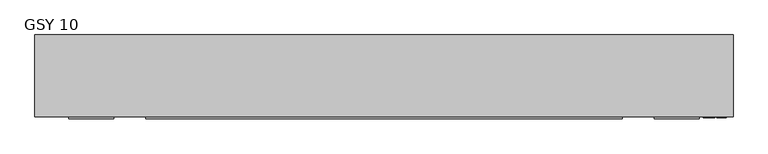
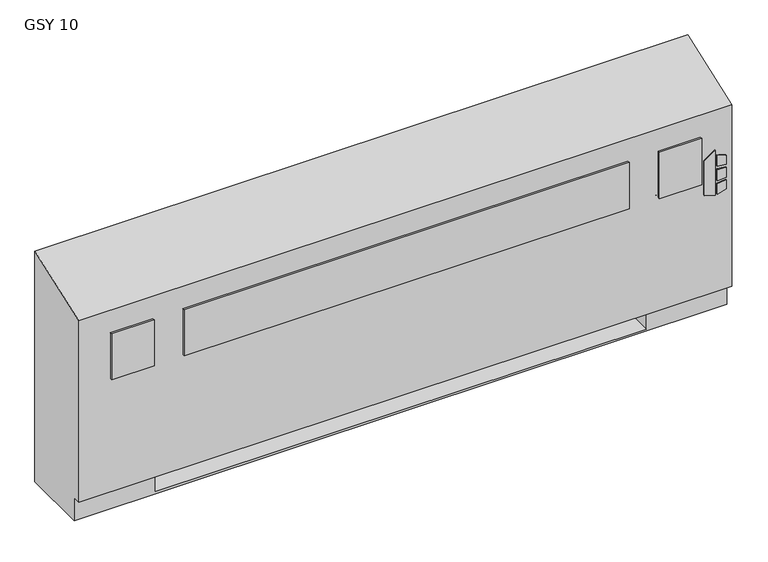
"""IFC4 building model written with IfcOpenShell, lengths in millimetres: proxy geometry, Vertical_Fan_Coil_Unit_-_GSY_-_IEC_-_2-Pipe_FS-FR_RH_2022 : GSY 10."""

import ifcopenshell
import ifcopenshell.guid

model = None  # the IFC model being written
_history = None  # IfcOwnerHistory: only IFC2X3 demands one
_inside = {}  # id of a spatial element -> (the spatial element, [elements in it])
_under = {}  # id of a project, library or spatial element -> (it, [spatial elements below it])
_declared = {}  # id of a project -> (the project, [libraries it declares])
_typed = {}  # id of a type object -> (the type object, [elements of that type])
_made_of = {}  # id of a material, layer set ... -> (it, [elements and type objects made of it])


def new_model(schema):
    """Start an empty IFC model of exactly this schema.

    Asked for "IFC4X3", IfcOpenShell would pick the latest addendum, in which some entities
    have other attributes; the version numbers below select the first issue.
    IFC2X3 requires an IfcOwnerHistory on every rooted entity: one is made here for all.
    """
    global model, _history
    if schema == "IFC4X3":
        model = ifcopenshell.file(schema_version=(4, 3, 0, 0))
    else:
        model = ifcopenshell.file(schema=schema)
    _inside.clear()
    _under.clear()
    _declared.clear()
    _typed.clear()
    _made_of.clear()
    _history = None
    if model.schema == "IFC2X3":
        org = make("IfcOrganization", Name="unknown")
        user = make(
            "IfcPersonAndOrganization",
            ThePerson=make("IfcPerson", FamilyName="unknown"),
            TheOrganization=org,
        )
        app = make(
            "IfcApplication",
            ApplicationDeveloper=org,
            Version="unknown",
            ApplicationFullName="unknown",
            ApplicationIdentifier="unknown",
        )
        _history = make(
            "IfcOwnerHistory",
            OwningUser=user,
            OwningApplication=app,
            ChangeAction="ADDED",
            CreationDate=0,
        )
    return model


def make(cls, **values):
    """One entity of the class cls with the attributes given. An attribute that is None is left unset."""
    return model.create_entity(
        cls, **{name: value for name, value in values.items() if value is not None}
    )


def rooted(cls, **values):
    """An entity with a GlobalId (a new one), such as an element, a storey or a relation."""
    return make(cls, GlobalId=ifcopenshell.guid.new(), OwnerHistory=_history, **values)


def si_unit(unit_type, name, prefix=None):
    """IfcSIUnit, for example si_unit("LENGTHUNIT", "METRE", prefix="MILLI")."""
    return make("IfcSIUnit", UnitType=unit_type, Prefix=prefix, Name=name)


def assignment(units):
    """IfcUnitAssignment: the units of a project."""
    return None if units is None else make("IfcUnitAssignment", Units=units)


def point(xyz):
    """IfcCartesianPoint."""
    return None if xyz is None else make("IfcCartesianPoint", Coordinates=xyz)


def direction(xyz):
    """IfcDirection."""
    return None if xyz is None else make("IfcDirection", DirectionRatios=xyz)


def frame(location, z_axis=None, x_axis=None):
    """IfcAxis2Placement3D, a coordinate frame: its origin and axes. An axis left out is left unset."""
    return make(
        "IfcAxis2Placement3D",
        Location=point(location),
        Axis=direction(z_axis),
        RefDirection=direction(x_axis),
    )


def frame_2d(location, x_axis=None):
    """IfcAxis2Placement2D, a coordinate frame in the plane: its origin and x axis."""
    return make(
        "IfcAxis2Placement2D", Location=point(location), RefDirection=direction(x_axis)
    )


def origin():
    """The frame at (0, 0, 0) with its axes left unset."""
    return frame((0.0, 0.0, 0.0))


def place(relative_to, where):
    """IfcLocalPlacement: puts the frame where relative to a parent placement (None: the world)."""
    return make(
        "IfcLocalPlacement", PlacementRelTo=relative_to, RelativePlacement=where
    )


def context(
    kind, dimensions, precision=None, world=None, true_north=None, identifier=None
):
    """IfcGeometricRepresentationContext, for example the 3D "Model" context."""
    return make(
        "IfcGeometricRepresentationContext",
        ContextIdentifier=identifier,
        ContextType=kind,
        CoordinateSpaceDimension=dimensions,
        Precision=precision,
        WorldCoordinateSystem=world,
        TrueNorth=true_north,
    )


def project(units=None, contexts=None):
    """IfcProject with its units and contexts."""
    return rooted(
        "IfcProject",
        Name="project",
        RepresentationContexts=contexts,
        UnitsInContext=assignment(units),
    )


def spatial(cls, under=None, at=None, **own):
    """A site, building, storey or space (cls), placed at a placement, below another one or the project."""
    s = rooted(cls, ObjectPlacement=at, **own)
    if under is not None:
        _under.setdefault(under.id(), (under, []))[1].append(s)
    return s


def polyline(points):
    """IfcPolyline through the points."""
    return make("IfcPolyline", Points=[point(p) for p in points])


def circle_curve(where, radius):
    """IfcCircle in the frame where."""
    return make("IfcCircle", Position=where, Radius=radius)


def trimmed(basis, trim1, trim2, sense, master):
    """IfcTrimmedCurve: the piece of a basis curve between two trims."""
    return make(
        "IfcTrimmedCurve",
        BasisCurve=basis,
        Trim1=trim1,
        Trim2=trim2,
        SenseAgreement=sense,
        MasterRepresentation=master,
    )


def segment(curve, same_sense, transition):
    """IfcCompositeCurveSegment."""
    return make(
        "IfcCompositeCurveSegment",
        Transition=transition,
        SameSense=same_sense,
        ParentCurve=curve,
    )


def composite_curve(segments, self_intersect=None):
    """IfcCompositeCurve: segments joined end to end."""
    return make("IfcCompositeCurve", Segments=segments, SelfIntersect=self_intersect)


def outline(outer, holes=None, kind="AREA"):
    """IfcArbitraryClosedProfileDef: a profile drawn as a closed curve; with holes, ...WithVoids."""
    if holes is None:
        return make("IfcArbitraryClosedProfileDef", ProfileType=kind, OuterCurve=outer)
    return make(
        "IfcArbitraryProfileDefWithVoids",
        ProfileType=kind,
        OuterCurve=outer,
        InnerCurves=holes,
    )


def extrude(swept, where, along, depth):
    """IfcExtrudedAreaSolid: the profile swept, set in the frame where, extruded along a direction by depth."""
    return make(
        "IfcExtrudedAreaSolid",
        SweptArea=swept,
        Position=where,
        ExtrudedDirection=direction(along),
        Depth=depth,
    )


def shape(context_of_items, identifier, shape_type, items):
    """IfcShapeRepresentation: the items that make up one representation, for example the "Body"."""
    return make(
        "IfcShapeRepresentation",
        ContextOfItems=context_of_items,
        RepresentationIdentifier=identifier,
        RepresentationType=shape_type,
        Items=items,
    )


def source(mapping_origin, context_of_items, identifier, shape_type, items):
    """IfcRepresentationMap: a shape defined once, which mapped items show again and again."""
    return make(
        "IfcRepresentationMap",
        MappingOrigin=mapping_origin,
        MappedRepresentation=shape(context_of_items, identifier, shape_type, items),
    )


def transform(
    local_origin,
    x_axis=None,
    y_axis=None,
    z_axis=None,
    scale=None,
    scale2=None,
    scale3=None,
    uniform=True,
):
    """IfcCartesianTransformationOperator3D, or its non-uniform kind. x_axis, y_axis, z_axis: its Axis1, 2, 3."""
    if uniform:
        return make(
            "IfcCartesianTransformationOperator3D",
            Axis1=direction(x_axis),
            Axis2=direction(y_axis),
            LocalOrigin=point(local_origin),
            Scale=scale,
            Axis3=direction(z_axis),
        )
    return make(
        "IfcCartesianTransformationOperator3DnonUniform",
        Axis1=direction(x_axis),
        Axis2=direction(y_axis),
        LocalOrigin=point(local_origin),
        Scale=scale,
        Axis3=direction(z_axis),
        Scale2=scale2,
        Scale3=scale3,
    )


def mapped(mapping_source, mapping_target):
    """IfcMappedItem: shows the shape of a source again, moved by a transform."""
    return make(
        "IfcMappedItem", MappingSource=mapping_source, MappingTarget=mapping_target
    )


def made_of(thing, what):
    """Note that an element or type object is made of a material, layer set ...; save() writes the relation."""
    if what is not None:
        _made_of.setdefault(what.id(), (what, []))[1].append(thing)
    return thing


def element(
    cls,
    number,
    at=None,
    inside=None,
    cuts=None,
    type_object=None,
    material=None,
    context=None,
    identifier="Body",
    shape_type=None,
    held_by="IfcProductDefinitionShape",
    body=None,
    shapes=None,
    **own,
):
    """One element of the class cls, such as IfcWall. Its Tag is "e" and its number.

    at: its placement. inside: the storey or other place that contains it. cuts: it is an
    opening in that element (IfcRelVoidsElement). A single representation is given by context,
    identifier, shape_type and body (its items); several are given by shapes. held_by: the class
    of the entity that holds the representations. save() writes the other relations.
    """
    e = rooted(cls, Tag="e%d" % number, ObjectPlacement=at, **own)
    if body is not None:
        shapes = [shape(context, identifier, shape_type, body)]
    if shapes is not None:
        e.Representation = make(held_by, Representations=shapes)
    if inside is not None:
        _inside.setdefault(inside.id(), (inside, []))[1].append(e)
    if cuts is not None:
        rooted(
            "IfcRelVoidsElement", RelatingBuildingElement=cuts, RelatedOpeningElement=e
        )
    if type_object is not None:
        _typed.setdefault(type_object.id(), (type_object, []))[1].append(e)
    return made_of(e, material)


def aggregate(whole, parts):
    """IfcRelAggregates: a whole, such as a stair, and the parts it consists of."""
    return rooted("IfcRelAggregates", RelatingObject=whole, RelatedObjects=parts)


def save(model, path):
    """Write the relations noted so far, then the file.

    IfcRelAggregates (storeys below a building ...), IfcRelContainedInSpatialStructure (elements
    in a storey), IfcRelDefinesByType, IfcRelAssociatesMaterial and IfcRelDeclares: one each for
    every whole, place, type object, material and project.
    """
    for whole, parts in _under.values():
        aggregate(whole, parts)
    for where, things in _inside.values():
        rooted(
            "IfcRelContainedInSpatialStructure",
            RelatedElements=things,
            RelatingStructure=where,
        )
    for kind, things in _typed.values():
        rooted("IfcRelDefinesByType", RelatedObjects=things, RelatingType=kind)
    for what, things in _made_of.values():
        rooted("IfcRelAssociatesMaterial", RelatedObjects=things, RelatingMaterial=what)
    for by, libraries in _declared.values():
        rooted("IfcRelDeclares", RelatingContext=by, RelatedDefinitions=libraries)
    model.write(path)


def plane_surface(at):
    """IfcPlane: the flat surface through the origin of the frame at, square to its z axis."""
    return make("IfcPlane", Position=at)


def revolved_surface(curve, axis_point, axis_direction):
    """IfcSurfaceOfRevolution: the curve turned about the line through axis_point along axis_direction."""
    return make(
        "IfcSurfaceOfRevolution",
        SweptCurve=make("IfcArbitraryOpenProfileDef", ProfileType="CURVE", Curve=curve),
        AxisPosition=make("IfcAxis1Placement", Location=point(axis_point), Axis=direction(axis_direction)),
    )


def advanced_brep(points, edges, surfaces, faces):
    """IfcAdvancedBrep: a solid bounded by faces that lie on surfaces and meet in shared edges.

    An edge is (start, end): straight between two places in points (the first is 0);
    or (start, end, curve); or (start, end, curve, False) where it runs against its curve.
    A face is (place in surfaces, loops), or (place, loops, False) where it looks against
    its surface's normal. A loop lists edges by number (the first is 1), with a minus sign
    where the edge is run from its end to its start. The first loop is the outer one.
    """
    corners = [point(p) for p in points]
    vertices = [make("IfcVertexPoint", VertexGeometry=c) for c in corners]
    made = []
    for start, end, *more in edges:
        made.append(
            make(
                "IfcEdgeCurve",
                EdgeStart=vertices[start],
                EdgeEnd=vertices[end],
                EdgeGeometry=more[0] if more else make("IfcPolyline", Points=[corners[start], corners[end]]),
                SameSense=more[1] if len(more) > 1 else True,
            )
        )
    hull = []
    for where, loops, *sense in faces:
        bounds = []
        for j, loop in enumerate(loops):
            ring = [make("IfcOrientedEdge", EdgeElement=made[abs(k) - 1], Orientation=k > 0) for k in loop]
            bounds.append(
                make(
                    "IfcFaceOuterBound" if j == 0 else "IfcFaceBound",
                    Bound=make("IfcEdgeLoop", EdgeList=ring),
                    Orientation=True,
                )
            )
        hull.append(make("IfcAdvancedFace", Bounds=bounds, FaceSurface=surfaces[where], SameSense=sense[0] if sense else True))
    return make("IfcAdvancedBrep", Outer=make("IfcClosedShell", CfsFaces=hull))


def gsy_10_ef9cb39d(model_context):
    return source(origin(), model_context, "Body", "SolidModel", [
        extrude(outline(polyline([(391.6086829, 1046.2368862), (381.6606126, 1078.4102728), (523.831537, 1078.4102728), (500.8095309, 1046.2368862), (391.6086829, 1046.2368862)])), frame((0.0, 12.7, 0.0), z_axis=(0.0, 1.0, 0.0), x_axis=(0.0, 0.0, 1.0)), (0.0, 0.0, 1.0), 3.175),
        extrude(outline(polyline([(470.6079683, 1085.1686058), (467.4055757, 1111.25), (496.6344168, 1111.25), (504.6988318, 1085.1686058), (470.6079683, 1085.1686058)])), frame((0.0, 12.7, 0.0), z_axis=(0.0, 1.0, 0.0), x_axis=(0.0, 0.0, 1.0)), (0.0, 0.0, 1.0), 3.175),
        extrude(outline(polyline([(418.7444414, 1111.25), (415.0789404, 1085.1686058), (381.6606126, 1085.1686058), (390.2948498, 1111.25), (418.7444414, 1111.25)])), frame((0.0, 12.7, 0.0), z_axis=(0.0, 1.0, 0.0), x_axis=(0.0, 0.0, 1.0)), (0.0, 0.0, 1.0), 3.175),
        extrude(outline(polyline([(458.0596028, 1111.25), (460.3414292, 1085.1686058), (424.4038806, 1085.1686058), (427.1451456, 1111.25), (458.0596028, 1111.25)])), frame((0.0, 12.7, 0.0), z_axis=(0.0, 1.0, 0.0), x_axis=(0.0, 0.0, 1.0)), (0.0, 0.0, 1.0), 3.175),
        extrude(outline(polyline([(-604.393, 9.525), (-731.393, 9.525), (-731.393, 15.875), (-604.393, 15.875), (-604.393, 9.525)])), frame((0.0, 0.0, 431.8), z_axis=(0.0, 0.0, 1.0), x_axis=(1.0, 0.0, 0.0)), (0.0, 0.0, 1.0), 146.05),
        extrude(outline(polyline([(819.15, 9.525), (-514.35, 9.525), (-514.35, 15.875), (819.15, 15.875), (819.15, 9.525)])), frame((0.0, 0.0, 431.8), z_axis=(0.0, 0.0, 1.0), x_axis=(1.0, 0.0, 0.0)), (0.0, 0.0, 1.0), 146.05),
        extrude(outline(polyline([(1036.193, 9.525), (909.193, 9.525), (909.193, 15.875), (1036.193, 15.875), (1036.193, 9.525)])), frame((0.0, 0.0, 431.8), z_axis=(0.0, 0.0, 1.0), x_axis=(1.0, 0.0, 0.0)), (0.0, 0.0, 1.0), 146.05),
        extrude(outline(polyline([(-704.85, 81.534), (-704.85, 223.266), (-127.0, 223.266), (-127.0, 81.534), (-704.85, 81.534)])), frame((0.0, 0.0, 327.025), z_axis=(0.0, 0.0, 1.0), x_axis=(1.0, 0.0, 0.0)), (0.0, 0.0, 1.0), 260.35),
        extrude(outline(composite_curve([segment(trimmed(circle_curve(frame_2d((80.645, 397.002)), 7.9375), [point((80.645, 404.9395))], [point((80.645, 389.0645))], False, "CARTESIAN"), True, "CONTINUOUS"), segment(trimmed(circle_curve(frame_2d((80.645, 397.002)), 7.9375), [point((80.645, 389.0645))], [point((80.645, 404.9395))], False, "CARTESIAN"), True, "CONTINUOUS")], self_intersect=False)), frame((889.0, 0.0, 0.0), z_axis=(1.0, 0.0, 0.0), x_axis=(0.0, 1.0, 0.0)), (0.0, 0.0, 1.0), 50.8),
        extrude(outline(composite_curve([segment(trimmed(circle_curve(frame_2d((156.8958, 535.8892)), 7.9375), [point((156.8958, 543.8267))], [point((156.8958, 527.9517))], False, "CARTESIAN"), True, "CONTINUOUS"), segment(trimmed(circle_curve(frame_2d((156.8958, 535.8892)), 7.9375), [point((156.8958, 527.9517))], [point((156.8958, 543.8267))], False, "CARTESIAN"), True, "CONTINUOUS")], self_intersect=False)), frame((889.0, 0.0, 0.0), z_axis=(1.0, 0.0, 0.0), x_axis=(0.0, 1.0, 0.0)), (0.0, 0.0, 1.0), 50.8),
        advanced_brep(
        [(-825.5, 244.475, 0.0), (1130.3, 244.475, 0.0), (1130.3, 41.275, 0.0), (-825.5, 41.275, 0.0), (-825.5, 244.475, 730.25), (1130.3, 244.475, 730.25), (889.0, 244.475, 73.025), (1117.6, 244.475, 73.025), (1117.6, 244.475, 654.05), (889.0, 244.475, 654.05), (889.0, 244.475, 414.8650565), (917.575, 244.475, 414.8650565), (917.575, 244.475, 385.2349435), (889.0, 244.475, 385.2349435), (889.0, 244.475, 287.3375), (917.575, 244.475, 287.3375), (917.575, 244.475, 258.7625), (889.0, 244.475, 258.7625), (889.0, 244.475, 141.2875), (917.575, 244.475, 141.2875), (917.575, 244.475, 112.7125), (889.0, 244.475, 112.7125), (-584.2, 244.475, 654.05), (-812.8, 244.475, 654.05), (-812.8, 244.475, 73.025), (-584.2, 244.475, 73.025), (-584.2, 244.475, 112.7125), (-612.775, 244.475, 112.7125), (-612.775, 244.475, 141.2875), (-584.2, 244.475, 141.2875), (-584.2, 244.475, 258.7625), (-612.775, 244.475, 258.7625), (-612.775, 244.475, 287.3375), (-584.2, 244.475, 287.3375), (-584.2, 244.475, 385.2349435), (-612.775, 244.475, 385.2349435), (-612.775, 244.475, 414.8650565), (-584.2, 244.475, 414.8650565), (907.2626, 244.475, 127.0), (896.1374, 244.475, 127.0), (907.2626, 244.475, 400.05), (896.1374, 244.475, 400.05), (907.2626, 244.475, 273.05), (896.1374, 244.475, 273.05), (-591.3374, 244.475, 127.0), (-602.4626, 244.475, 127.0), (-591.3374, 244.475, 273.05), (-602.4626, 244.475, 273.05), (-591.3374, 244.475, 400.05), (-602.4626, 244.475, 400.05), (-825.5, 41.275, 73.025), (-825.5, 15.875, 73.025), (-825.5, 15.875, 647.7), (1130.3, 15.875, 73.025), (1130.3, 15.875, 647.7), (1130.3, 41.275, 73.025), (-584.2, 41.275, 73.025), (-584.2, 225.425, 73.025), (889.0, 225.425, 73.025), (889.0, 41.275, 73.025), (889.0, 41.275, 6.35), (-584.2, 41.275, 6.35), (889.0, 41.275, 654.05), (1117.6, 41.275, 654.05), (1117.6, 41.275, 73.025), (889.0, 41.275, 73.025), (-584.2, 41.275, 654.05), (-584.2, 41.275, 73.025), (-812.8, 41.275, 73.025), (-812.8, 41.275, 654.05), (889.0, 225.425, 73.025), (889.0, 238.125, 112.7125), (889.0, 238.125, 141.2875), (889.0, 238.125, 258.7625), (889.0, 238.125, 287.3375), (889.0, 238.125, 385.2349435), (889.0, 238.125, 414.8650565), (-584.2, 225.425, 73.025), (-584.2, 238.125, 414.8650565), (-584.2, 238.125, 385.2349435), (-584.2, 238.125, 287.3375), (-584.2, 238.125, 258.7625), (-584.2, 238.125, 141.2875), (-584.2, 238.125, 112.7125), (-584.2, 225.425, 6.35), (889.0, 225.425, 6.35), (917.575, 238.125, 112.7125), (917.575, 238.125, 141.2875), (896.1374, 238.125, 127.0), (907.2626, 238.125, 127.0), (917.575, 238.125, 258.7625), (917.575, 238.125, 287.3375), (896.1374, 238.125, 273.05), (907.2626, 238.125, 273.05), (917.575, 238.125, 385.2349435), (917.575, 238.125, 414.8650565), (896.1374, 238.125, 400.05), (907.2626, 238.125, 400.05), (-612.775, 238.125, 141.2875), (-612.775, 238.125, 112.7125), (-602.4626, 238.125, 127.0), (-591.3374, 238.125, 127.0), (-612.775, 238.125, 287.3375), (-612.775, 238.125, 258.7625), (-602.4626, 238.125, 273.05), (-591.3374, 238.125, 273.05), (-612.775, 238.125, 414.8650565), (-612.775, 238.125, 385.2349435), (-602.4626, 238.125, 400.05), (-591.3374, 238.125, 400.05)],
        [
            (0, 1),
            (1, 2),
            (2, 3),
            (3, 0),
            (0, 4),
            (4, 5),
            (5, 1),
            (6, 7),
            (7, 8),
            (8, 9),
            (9, 10),
            (10, 11),
            (11, 12),
            (12, 13),
            (13, 14),
            (14, 15),
            (15, 16),
            (16, 17),
            (17, 18),
            (18, 19),
            (19, 20),
            (20, 21),
            (21, 6),
            (22, 23),
            (23, 24),
            (24, 25),
            (25, 26),
            (26, 27),
            (27, 28),
            (28, 29),
            (29, 30),
            (30, 31),
            (31, 32),
            (32, 33),
            (33, 34),
            (34, 35),
            (35, 36),
            (36, 37),
            (37, 22),
            (38, 39, circle_curve(frame((901.7, 244.475, 127.0), z_axis=(0.0, -1.0, 0.0), x_axis=(-1.0, 0.0, 0.0)), 5.5626)),
            (39, 38, circle_curve(frame((901.7, 244.475, 127.0), z_axis=(0.0, -1.0, 0.0), x_axis=(-1.0, 0.0, 0.0)), 5.5626)),
            (40, 41, circle_curve(frame((901.7, 244.475, 400.05), z_axis=(0.0, -1.0, 0.0), x_axis=(-1.0, 0.0, 0.0)), 5.5626)),
            (41, 40, circle_curve(frame((901.7, 244.475, 400.05), z_axis=(0.0, -1.0, 0.0), x_axis=(-1.0, 0.0, 0.0)), 5.5626)),
            (42, 43, circle_curve(frame((901.7, 244.475, 273.05), z_axis=(0.0, -1.0, 0.0), x_axis=(-1.0, 0.0, 0.0)), 5.5626)),
            (43, 42, circle_curve(frame((901.7, 244.475, 273.05), z_axis=(0.0, -1.0, 0.0), x_axis=(-1.0, 0.0, 0.0)), 5.5626)),
            (44, 45, circle_curve(frame((-596.9, 244.475, 127.0), z_axis=(0.0, -1.0, 0.0), x_axis=(-1.0, 0.0, 0.0)), 5.5626)),
            (45, 44, circle_curve(frame((-596.9, 244.475, 127.0), z_axis=(0.0, -1.0, 0.0), x_axis=(-1.0, 0.0, 0.0)), 5.5626)),
            (46, 47, circle_curve(frame((-596.9, 244.475, 273.05), z_axis=(0.0, -1.0, 0.0), x_axis=(-1.0, 0.0, 0.0)), 5.5626)),
            (47, 46, circle_curve(frame((-596.9, 244.475, 273.05), z_axis=(0.0, -1.0, 0.0), x_axis=(-1.0, 0.0, 0.0)), 5.5626)),
            (48, 49, circle_curve(frame((-596.9, 244.475, 400.05), z_axis=(0.0, -1.0, 0.0), x_axis=(-1.0, 0.0, 0.0)), 5.5626)),
            (49, 48, circle_curve(frame((-596.9, 244.475, 400.05), z_axis=(0.0, -1.0, 0.0), x_axis=(-1.0, 0.0, 0.0)), 5.5626)),
            (3, 50),
            (50, 51),
            (51, 52),
            (52, 4),
            (51, 53),
            (53, 54),
            (54, 52),
            (5, 54),
            (53, 55),
            (55, 2),
            (50, 56),
            (56, 57),
            (57, 58),
            (58, 59),
            (59, 55),
            (59, 60),
            (60, 61),
            (61, 56),
            (62, 63),
            (63, 64),
            (64, 65),
            (65, 62),
            (66, 67),
            (67, 68),
            (68, 69),
            (69, 66),
            (65, 70),
            (70, 6),
            (21, 71),
            (71, 72),
            (72, 18),
            (17, 73),
            (73, 74),
            (74, 14),
            (13, 75),
            (75, 76),
            (76, 10),
            (9, 62),
            (64, 7),
            (63, 8),
            (69, 23),
            (22, 66),
            (68, 24),
            (67, 77),
            (77, 25),
            (37, 78),
            (78, 79),
            (79, 34),
            (33, 80),
            (80, 81),
            (81, 30),
            (29, 82),
            (82, 83),
            (83, 26),
            (57, 84),
            (84, 85),
            (85, 58),
            (85, 60),
            (84, 61),
            (71, 86),
            (86, 87),
            (87, 72),
            (88, 89, circle_curve(frame((901.7, 238.125, 127.0), z_axis=(0.0, 1.0, 0.0), x_axis=(-1.0, 0.0, 0.0)), 5.5626)),
            (89, 88, circle_curve(frame((901.7, 238.125, 127.0), z_axis=(0.0, 1.0, 0.0), x_axis=(-1.0, 0.0, 0.0)), 5.5626)),
            (73, 90),
            (90, 91),
            (91, 74),
            (92, 93, circle_curve(frame((901.7, 238.125, 273.05), z_axis=(0.0, 1.0, 0.0), x_axis=(-1.0, 0.0, 0.0)), 5.5626)),
            (93, 92, circle_curve(frame((901.7, 238.125, 273.05), z_axis=(0.0, 1.0, 0.0), x_axis=(-1.0, 0.0, 0.0)), 5.5626)),
            (75, 94),
            (94, 95),
            (95, 76),
            (96, 97, circle_curve(frame((901.7, 238.125, 400.05), z_axis=(0.0, 1.0, 0.0), x_axis=(-1.0, 0.0, 0.0)), 5.5626)),
            (97, 96, circle_curve(frame((901.7, 238.125, 400.05), z_axis=(0.0, 1.0, 0.0), x_axis=(-1.0, 0.0, 0.0)), 5.5626)),
            (98, 99),
            (99, 83),
            (82, 98),
            (100, 101, circle_curve(frame((-596.9, 238.125, 127.0), z_axis=(0.0, 1.0, 0.0), x_axis=(-1.0, 0.0, 0.0)), 5.5626)),
            (101, 100, circle_curve(frame((-596.9, 238.125, 127.0), z_axis=(0.0, 1.0, 0.0), x_axis=(-1.0, 0.0, 0.0)), 5.5626)),
            (102, 103),
            (103, 81),
            (80, 102),
            (104, 105, circle_curve(frame((-596.9, 238.125, 273.05), z_axis=(0.0, 1.0, 0.0), x_axis=(-1.0, 0.0, 0.0)), 5.5626)),
            (105, 104, circle_curve(frame((-596.9, 238.125, 273.05), z_axis=(0.0, 1.0, 0.0), x_axis=(-1.0, 0.0, 0.0)), 5.5626)),
            (106, 107),
            (107, 79),
            (78, 106),
            (108, 109, circle_curve(frame((-596.9, 238.125, 400.05), z_axis=(0.0, 1.0, 0.0), x_axis=(-1.0, 0.0, 0.0)), 5.5626)),
            (109, 108, circle_curve(frame((-596.9, 238.125, 400.05), z_axis=(0.0, 1.0, 0.0), x_axis=(-1.0, 0.0, 0.0)), 5.5626)),
            (87, 19),
            (86, 20),
            (91, 15),
            (90, 16),
            (95, 11),
            (94, 12),
            (28, 98),
            (99, 27),
            (32, 102),
            (103, 31),
            (36, 106),
            (107, 35),
            (88, 39),
            (38, 89),
            (96, 41),
            (40, 97),
            (92, 43),
            (42, 93),
            (100, 45),
            (44, 101),
            (104, 47),
            (46, 105),
            (108, 49),
            (48, 109),
        ],
        [
            plane_surface(frame((-825.5, 244.475, 0.0), z_axis=(0.0, 0.0, -1.0), x_axis=(1.0, 0.0, 0.0))),
            plane_surface(frame((1130.3, 244.475, 730.25), z_axis=(0.0, 1.0, 0.0), x_axis=(0.0, 0.0, -1.0))),
            plane_surface(frame((-825.5, 244.475, 730.25), z_axis=(-1.0, 0.0, 0.0), x_axis=(0.0, 0.0, -1.0))),
            plane_surface(frame((-825.5, 15.875, 730.25), z_axis=(0.0, -1.0, 0.0), x_axis=(0.0, 0.0, -1.0))),
            plane_surface(frame((1130.3, 15.875, 730.25), z_axis=(1.0, 0.0, 0.0), x_axis=(0.0, 0.0, -1.0))),
            plane_surface(frame((-825.5, 15.875, 73.025), z_axis=(0.0, 0.0, -1.0), x_axis=(1.0, 0.0, 0.0))),
            plane_surface(frame((-825.5, 41.275, 73.025), z_axis=(0.0, -1.0, 0.0), x_axis=(1.0, 0.0, 0.0))),
            plane_surface(frame((889.0, 41.275, 654.05), z_axis=(0.0, 1.0, 0.0), x_axis=(0.0, 0.0, -1.0))),
            plane_surface(frame((889.0, 41.275, 654.05), z_axis=(1.0, 0.0, 0.0), x_axis=(0.0, 1.0, 0.0))),
            plane_surface(frame((889.0, 41.275, 73.025), z_axis=(0.0, 0.0, 1.0), x_axis=(0.0, 1.0, 0.0))),
            plane_surface(frame((1117.6, 41.275, 73.025), z_axis=(-1.0, 0.0, 0.0), x_axis=(0.0, 1.0, 0.0))),
            plane_surface(frame((1117.6, 41.275, 654.05), z_axis=(0.0, 0.0, -1.0), x_axis=(0.0, 1.0, 0.0))),
            plane_surface(frame((-584.2, 41.275, 654.05), z_axis=(0.0, 0.0, -1.0), x_axis=(0.0, 1.0, 0.0))),
            plane_surface(frame((-812.8, 41.275, 654.05), z_axis=(1.0, 0.0, 0.0), x_axis=(0.0, 1.0, 0.0))),
            plane_surface(frame((-812.8, 41.275, 73.025), z_axis=(0.0, 0.0, 1.0), x_axis=(0.0, 1.0, 0.0))),
            plane_surface(frame((-584.2, 41.275, 73.025), z_axis=(-1.0, 0.0, 0.0), x_axis=(0.0, 1.0, 0.0))),
            plane_surface(frame((889.0, 225.425, 73.025), z_axis=(0.0, -1.0, 0.0), x_axis=(0.0, 0.0, -1.0))),
            plane_surface(frame((889.0, 225.425, 73.025), z_axis=(-1.0, 0.0, 0.0), x_axis=(0.0, -1.0, 0.0))),
            plane_surface(frame((889.0, 225.425, 6.35), z_axis=(0.0, 0.0, 1.0), x_axis=(0.0, -1.0, 0.0))),
            plane_surface(frame((-584.2, 225.425, 6.35), z_axis=(1.0, 0.0, 0.0), x_axis=(0.0, -1.0, 0.0))),
            plane_surface(frame((917.575, 238.125, 141.2875), z_axis=(0.0, -1.0, 0.0), x_axis=(-1.0, 0.0, 0.0))),
            plane_surface(frame((889.0, 244.475, 141.2875), z_axis=(0.0, 0.0, 1.0), x_axis=(0.0, -1.0, 0.0))),
            plane_surface(frame((917.575, 244.475, 141.2875), z_axis=(1.0, 0.0, 0.0), x_axis=(0.0, -1.0, 0.0))),
            plane_surface(frame((917.575, 244.475, 112.7125), z_axis=(0.0, 0.0, -1.0), x_axis=(0.0, -1.0, 0.0))),
            plane_surface(frame((889.0, 244.475, 287.3375), z_axis=(0.0, 0.0, 1.0), x_axis=(0.0, -1.0, 0.0))),
            plane_surface(frame((917.575, 244.475, 287.3375), z_axis=(1.0, 0.0, 0.0), x_axis=(0.0, -1.0, 0.0))),
            plane_surface(frame((917.575, 244.475, 258.7625), z_axis=(0.0, 0.0, -1.0), x_axis=(0.0, -1.0, 0.0))),
            plane_surface(frame((889.0, 244.475, 414.8650565), z_axis=(0.0, 0.0, 1.0), x_axis=(0.0, -1.0, 0.0))),
            plane_surface(frame((917.575, 244.475, 414.8650565), z_axis=(1.0, 0.0, 0.0), x_axis=(0.0, -1.0, 0.0))),
            plane_surface(frame((917.575, 244.475, 385.2349435), z_axis=(0.0, 0.0, -1.0), x_axis=(0.0, -1.0, 0.0))),
            plane_surface(frame((-612.775, 244.475, 141.2875), z_axis=(0.0, 0.0, 1.0), x_axis=(0.0, -1.0, 0.0))),
            plane_surface(frame((-584.2, 244.475, 112.7125), z_axis=(0.0, 0.0, -1.0), x_axis=(0.0, -1.0, 0.0))),
            plane_surface(frame((-612.775, 244.475, 112.7125), z_axis=(-1.0, 0.0, 0.0), x_axis=(0.0, -1.0, 0.0))),
            plane_surface(frame((-612.775, 244.475, 287.3375), z_axis=(0.0, 0.0, 1.0), x_axis=(0.0, -1.0, 0.0))),
            plane_surface(frame((-584.2, 244.475, 258.7625), z_axis=(0.0, 0.0, -1.0), x_axis=(0.0, -1.0, 0.0))),
            plane_surface(frame((-612.775, 244.475, 258.7625), z_axis=(-1.0, 0.0, 0.0), x_axis=(0.0, -1.0, 0.0))),
            plane_surface(frame((-612.775, 244.475, 414.8650565), z_axis=(0.0, 0.0, 1.0), x_axis=(0.0, -1.0, 0.0))),
            plane_surface(frame((-584.2, 244.475, 385.2349435), z_axis=(0.0, 0.0, -1.0), x_axis=(0.0, -1.0, 0.0))),
            plane_surface(frame((-612.775, 244.475, 385.2349435), z_axis=(-1.0, 0.0, 0.0), x_axis=(0.0, -1.0, 0.0))),
            revolved_surface(polyline([(896.1374000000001, 238.125, 127.0), (896.1374000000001, 244.475, 127.0)]), (901.7, 244.475, 127.0), (0.0, -1.0, 0.0)),
            revolved_surface(polyline([(896.1374000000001, 238.125, 400.05), (896.1374000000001, 244.475, 400.05)]), (901.7, 244.475, 400.05), (0.0, -1.0, 0.0)),
            revolved_surface(polyline([(896.1374000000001, 238.125, 273.05), (896.1374000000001, 244.475, 273.05)]), (901.7, 244.475, 273.05), (0.0, -1.0, 0.0)),
            revolved_surface(polyline([(-602.4626, 238.125, 127.0), (-602.4626, 244.475, 127.0)]), (-596.9, 244.475, 127.0), (0.0, -1.0, 0.0)),
            revolved_surface(polyline([(-602.4626, 238.125, 273.05), (-602.4626, 244.475, 273.05)]), (-596.9, 244.475, 273.05), (0.0, -1.0, 0.0)),
            revolved_surface(polyline([(-602.4626, 238.125, 400.05), (-602.4626, 244.475, 400.05)]), (-596.9, 244.475, 400.05), (0.0, -1.0, 0.0)),
            plane_surface(frame((-825.5, 244.475, 730.25), z_axis=(0.0, -0.33964446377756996, 0.9405538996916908), x_axis=(1.0, 0.0, 0.0))),
        ],
        [
            (0, [[1, 2, 3, 4]]),
            (1, [[-1, 5, 6, 7], [8, 9, 10, 11, 12, 13, 14, 15, 16, 17, 18, 19, 20, 21, 22, 23], [24, 25, 26, 27, 28, 29, 30, 31, 32, 33, 34, 35, 36, 37, 38, 39], [40, 41], [42, 43], [44, 45], [46, 47], [48, 49], [50, 51]]),
            (2, [[-5, -4, 52, 53, 54, 55]]),
            (3, [[56, 57, 58, -54]]),
            (4, [[-7, 59, -57, 60, 61, -2]]),
            (5, [[-53, 62, 63, 64, 65, 66, -60, -56]]),
            (6, [[-3, -61, -66, 67, 68, 69, -62, -52]]),
            (7, [[70, 71, 72, 73]]),
            (7, [[74, 75, 76, 77]]),
            (8, [[-73, 78, 79, -23, 80, 81, 82, -19, 83, 84, 85, -15, 86, 87, 88, -11, 89]]),
            (9, [[-72, 90, -8, -79, -78]]),
            (10, [[-71, 91, -9, -90]]),
            (11, [[-70, -89, -10, -91]]),
            (12, [[-77, 92, -24, 93]]),
            (13, [[-76, 94, -25, -92]]),
            (14, [[-75, 95, 96, -26, -94]]),
            (15, [[-74, -93, -39, 97, 98, 99, -35, 100, 101, 102, -31, 103, 104, 105, -27, -96, -95]]),
            (16, [[-64, 106, 107, 108]]),
            (17, [[-108, 109, -67, -65]]),
            (18, [[-107, 110, -68, -109]]),
            (19, [[-106, -63, -69, -110]]),
            (20, [[111, 112, 113, -81], [114, 115]]),
            (20, [[116, 117, 118, -84], [119, 120]]),
            (20, [[121, 122, 123, -87], [124, 125]]),
            (20, [[126, 127, -104, 128], [129, 130]]),
            (20, [[131, 132, -101, 133], [134, 135]]),
            (20, [[136, 137, -98, 138], [139, 140]]),
            (21, [[-113, 141, -20, -82]]),
            (22, [[-112, 142, -21, -141]]),
            (23, [[-111, -80, -22, -142]]),
            (24, [[-118, 143, -16, -85]]),
            (25, [[-117, 144, -17, -143]]),
            (26, [[-116, -83, -18, -144]]),
            (27, [[-123, 145, -12, -88]]),
            (28, [[-122, 146, -13, -145]]),
            (29, [[-121, -86, -14, -146]]),
            (30, [[-128, -103, -30, 147]]),
            (31, [[-127, 148, -28, -105]]),
            (32, [[-126, -147, -29, -148]]),
            (33, [[-133, -100, -34, 149]]),
            (34, [[-132, 150, -32, -102]]),
            (35, [[-131, -149, -33, -150]]),
            (36, [[-138, -97, -38, 151]]),
            (37, [[-137, 152, -36, -99]]),
            (38, [[-136, -151, -37, -152]]),
            (39, [[153, -40, 154, -114]]),
            (39, [[-153, -115, -154, -41]]),
            (40, [[155, -42, 156, -124]]),
            (40, [[-155, -125, -156, -43]]),
            (41, [[157, -44, 158, -119]]),
            (41, [[-157, -120, -158, -45]]),
            (42, [[159, -46, 160, -129]]),
            (42, [[-159, -130, -160, -47]]),
            (43, [[161, -48, 162, -134]]),
            (43, [[-161, -135, -162, -49]]),
            (44, [[163, -50, 164, -139]]),
            (44, [[-163, -140, -164, -51]]),
            (45, [[-6, -55, -58, -59]]),
        ],
    ),
    ])


if __name__ == "__main__":
    model = new_model("IFC4")
    model_context = context("Model", 3, world=origin())
    ifc_project = project(units=[si_unit("LENGTHUNIT", "METRE", prefix="MILLI")], contexts=[model_context])
    site = spatial("IfcSite", under=ifc_project)
    building = spatial("IfcBuilding", under=site)
    placement = place(None, origin())
    gsy_10_shape = gsy_10_ef9cb39d(model_context)
    element("IfcBuildingElementProxy", 1, Name="Vertical_Fan_Coil_Unit_-_GSY_-_IEC_-_2-Pipe_FS-FR_RH_2022 : GSY 10", ObjectType="Vertical_Fan_Coil_Unit_-_GSY_-_IEC_-_2-Pipe_FS-FR_RH_2022 : GSY 10", at=placement, inside=building, context=model_context, shape_type="MappedRepresentation", body=[
        mapped(gsy_10_shape, transform((0.0, 0.0, 0.0), x_axis=(1.0, 0.0, 0.0), y_axis=(0.0, 1.0, 0.0), z_axis=(0.0, 0.0, 1.0))),
    ])
    save(model, "model.ifc")
